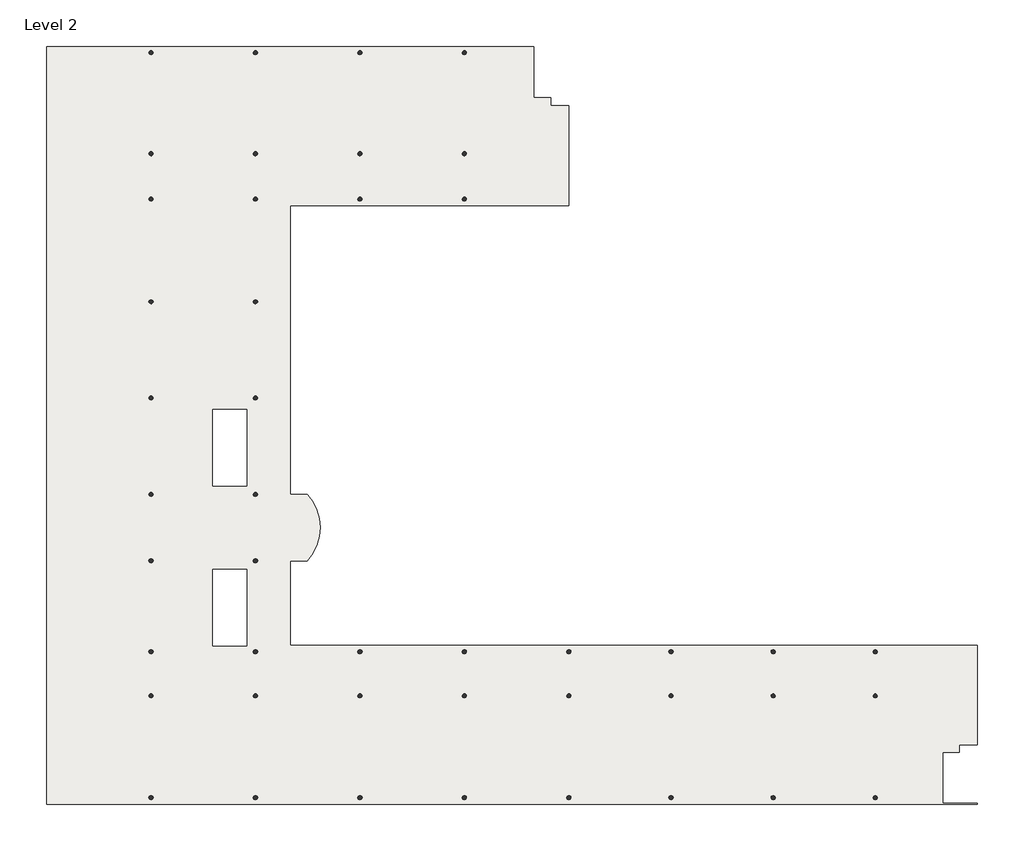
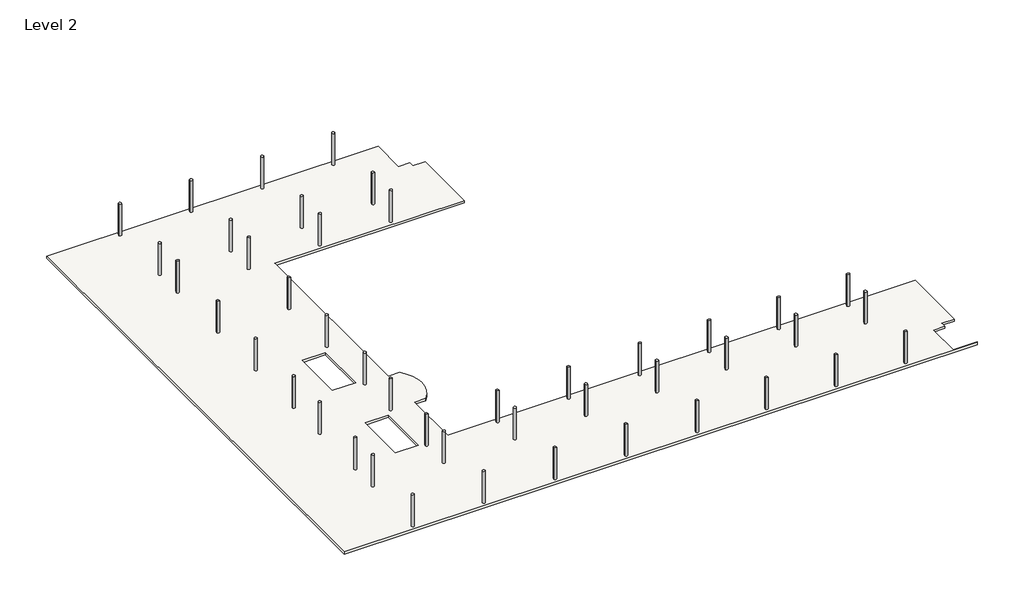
# One storey: 44 columns, 1 slab.
"""IFC4 building model written with IfcOpenShell, lengths in millimetres."""

import ifcopenshell
import ifcopenshell.guid

model = None  # the IFC model being written
_history = None  # IfcOwnerHistory: only IFC2X3 demands one
_inside = {}  # id of a spatial element -> (the spatial element, [elements in it])
_under = {}  # id of a project, library or spatial element -> (it, [spatial elements below it])
_declared = {}  # id of a project -> (the project, [libraries it declares])
_typed = {}  # id of a type object -> (the type object, [elements of that type])
_made_of = {}  # id of a material, layer set ... -> (it, [elements and type objects made of it])


def new_model(schema):
    """Start an empty IFC model of exactly this schema.

    Asked for "IFC4X3", IfcOpenShell would pick the latest addendum, in which some entities
    have other attributes; the version numbers below select the first issue.
    IFC2X3 requires an IfcOwnerHistory on every rooted entity: one is made here for all.
    """
    global model, _history
    if schema == "IFC4X3":
        model = ifcopenshell.file(schema_version=(4, 3, 0, 0))
    else:
        model = ifcopenshell.file(schema=schema)
    _inside.clear()
    _under.clear()
    _declared.clear()
    _typed.clear()
    _made_of.clear()
    _history = None
    if model.schema == "IFC2X3":
        org = make("IfcOrganization", Name="unknown")
        user = make(
            "IfcPersonAndOrganization",
            ThePerson=make("IfcPerson", FamilyName="unknown"),
            TheOrganization=org,
        )
        app = make(
            "IfcApplication",
            ApplicationDeveloper=org,
            Version="unknown",
            ApplicationFullName="unknown",
            ApplicationIdentifier="unknown",
        )
        _history = make(
            "IfcOwnerHistory",
            OwningUser=user,
            OwningApplication=app,
            ChangeAction="ADDED",
            CreationDate=0,
        )
    return model


def make(cls, **values):
    """One entity of the class cls with the attributes given. An attribute that is None is left unset."""
    return model.create_entity(
        cls, **{name: value for name, value in values.items() if value is not None}
    )


def rooted(cls, **values):
    """An entity with a GlobalId (a new one), such as an element, a storey or a relation."""
    return make(cls, GlobalId=ifcopenshell.guid.new(), OwnerHistory=_history, **values)


def si_unit(unit_type, name, prefix=None):
    """IfcSIUnit, for example si_unit("LENGTHUNIT", "METRE", prefix="MILLI")."""
    return make("IfcSIUnit", UnitType=unit_type, Prefix=prefix, Name=name)


def assignment(units):
    """IfcUnitAssignment: the units of a project."""
    return None if units is None else make("IfcUnitAssignment", Units=units)


def point(xyz):
    """IfcCartesianPoint."""
    return None if xyz is None else make("IfcCartesianPoint", Coordinates=xyz)


def direction(xyz):
    """IfcDirection."""
    return None if xyz is None else make("IfcDirection", DirectionRatios=xyz)


def frame(location, z_axis=None, x_axis=None):
    """IfcAxis2Placement3D, a coordinate frame: its origin and axes. An axis left out is left unset."""
    return make(
        "IfcAxis2Placement3D",
        Location=point(location),
        Axis=direction(z_axis),
        RefDirection=direction(x_axis),
    )


def frame_2d(location, x_axis=None):
    """IfcAxis2Placement2D, a coordinate frame in the plane: its origin and x axis."""
    return make(
        "IfcAxis2Placement2D", Location=point(location), RefDirection=direction(x_axis)
    )


def origin():
    """The frame at (0, 0, 0) with its axes left unset."""
    return frame((0.0, 0.0, 0.0))


def origin_2d():
    """The frame at (0, 0) in the plane with its x axis left unset."""
    return frame_2d((0.0, 0.0))


def place(relative_to, where):
    """IfcLocalPlacement: puts the frame where relative to a parent placement (None: the world)."""
    return make(
        "IfcLocalPlacement", PlacementRelTo=relative_to, RelativePlacement=where
    )


def context(
    kind, dimensions, precision=None, world=None, true_north=None, identifier=None
):
    """IfcGeometricRepresentationContext, for example the 3D "Model" context."""
    return make(
        "IfcGeometricRepresentationContext",
        ContextIdentifier=identifier,
        ContextType=kind,
        CoordinateSpaceDimension=dimensions,
        Precision=precision,
        WorldCoordinateSystem=world,
        TrueNorth=true_north,
    )


def project(units=None, contexts=None):
    """IfcProject with its units and contexts."""
    return rooted(
        "IfcProject",
        Name="project",
        RepresentationContexts=contexts,
        UnitsInContext=assignment(units),
    )


def spatial(cls, under=None, at=None, **own):
    """A site, building, storey or space (cls), placed at a placement, below another one or the project."""
    s = rooted(cls, ObjectPlacement=at, **own)
    if under is not None:
        _under.setdefault(under.id(), (under, []))[1].append(s)
    return s


def polyline(points):
    """IfcPolyline through the points."""
    return make("IfcPolyline", Points=[point(p) for p in points])


def circle_curve(where, radius):
    """IfcCircle in the frame where."""
    return make("IfcCircle", Position=where, Radius=radius)


def trimmed(basis, trim1, trim2, sense, master):
    """IfcTrimmedCurve: the piece of a basis curve between two trims."""
    return make(
        "IfcTrimmedCurve",
        BasisCurve=basis,
        Trim1=trim1,
        Trim2=trim2,
        SenseAgreement=sense,
        MasterRepresentation=master,
    )


def segment(curve, same_sense, transition):
    """IfcCompositeCurveSegment."""
    return make(
        "IfcCompositeCurveSegment",
        Transition=transition,
        SameSense=same_sense,
        ParentCurve=curve,
    )


def composite_curve(segments, self_intersect=None):
    """IfcCompositeCurve: segments joined end to end."""
    return make("IfcCompositeCurve", Segments=segments, SelfIntersect=self_intersect)


def outline(outer, holes=None, kind="AREA"):
    """IfcArbitraryClosedProfileDef: a profile drawn as a closed curve; with holes, ...WithVoids."""
    if holes is None:
        return make("IfcArbitraryClosedProfileDef", ProfileType=kind, OuterCurve=outer)
    return make(
        "IfcArbitraryProfileDefWithVoids",
        ProfileType=kind,
        OuterCurve=outer,
        InnerCurves=holes,
    )


def extrude(swept, where, along, depth):
    """IfcExtrudedAreaSolid: the profile swept, set in the frame where, extruded along a direction by depth."""
    return make(
        "IfcExtrudedAreaSolid",
        SweptArea=swept,
        Position=where,
        ExtrudedDirection=direction(along),
        Depth=depth,
    )


def shape(context_of_items, identifier, shape_type, items):
    """IfcShapeRepresentation: the items that make up one representation, for example the "Body"."""
    return make(
        "IfcShapeRepresentation",
        ContextOfItems=context_of_items,
        RepresentationIdentifier=identifier,
        RepresentationType=shape_type,
        Items=items,
    )


def source(mapping_origin, context_of_items, identifier, shape_type, items):
    """IfcRepresentationMap: a shape defined once, which mapped items show again and again."""
    return make(
        "IfcRepresentationMap",
        MappingOrigin=mapping_origin,
        MappedRepresentation=shape(context_of_items, identifier, shape_type, items),
    )


def transform(
    local_origin,
    x_axis=None,
    y_axis=None,
    z_axis=None,
    scale=None,
    scale2=None,
    scale3=None,
    uniform=True,
):
    """IfcCartesianTransformationOperator3D, or its non-uniform kind. x_axis, y_axis, z_axis: its Axis1, 2, 3."""
    if uniform:
        return make(
            "IfcCartesianTransformationOperator3D",
            Axis1=direction(x_axis),
            Axis2=direction(y_axis),
            LocalOrigin=point(local_origin),
            Scale=scale,
            Axis3=direction(z_axis),
        )
    return make(
        "IfcCartesianTransformationOperator3DnonUniform",
        Axis1=direction(x_axis),
        Axis2=direction(y_axis),
        LocalOrigin=point(local_origin),
        Scale=scale,
        Axis3=direction(z_axis),
        Scale2=scale2,
        Scale3=scale3,
    )


def mapped(mapping_source, mapping_target):
    """IfcMappedItem: shows the shape of a source again, moved by a transform."""
    return make(
        "IfcMappedItem", MappingSource=mapping_source, MappingTarget=mapping_target
    )


def made_of(thing, what):
    """Note that an element or type object is made of a material, layer set ...; save() writes the relation."""
    if what is not None:
        _made_of.setdefault(what.id(), (what, []))[1].append(thing)
    return thing


def element(
    cls,
    number,
    at=None,
    inside=None,
    cuts=None,
    type_object=None,
    material=None,
    context=None,
    identifier="Body",
    shape_type=None,
    held_by="IfcProductDefinitionShape",
    body=None,
    shapes=None,
    **own,
):
    """One element of the class cls, such as IfcWall. Its Tag is "e" and its number.

    at: its placement. inside: the storey or other place that contains it. cuts: it is an
    opening in that element (IfcRelVoidsElement). A single representation is given by context,
    identifier, shape_type and body (its items); several are given by shapes. held_by: the class
    of the entity that holds the representations. save() writes the other relations.
    """
    e = rooted(cls, Tag="e%d" % number, ObjectPlacement=at, **own)
    if body is not None:
        shapes = [shape(context, identifier, shape_type, body)]
    if shapes is not None:
        e.Representation = make(held_by, Representations=shapes)
    if inside is not None:
        _inside.setdefault(inside.id(), (inside, []))[1].append(e)
    if cuts is not None:
        rooted(
            "IfcRelVoidsElement", RelatingBuildingElement=cuts, RelatedOpeningElement=e
        )
    if type_object is not None:
        _typed.setdefault(type_object.id(), (type_object, []))[1].append(e)
    return made_of(e, material)


def aggregate(whole, parts):
    """IfcRelAggregates: a whole, such as a stair, and the parts it consists of."""
    return rooted("IfcRelAggregates", RelatingObject=whole, RelatedObjects=parts)


def save(model, path):
    """Write the relations noted so far, then the file.

    IfcRelAggregates (storeys below a building ...), IfcRelContainedInSpatialStructure (elements
    in a storey), IfcRelDefinesByType, IfcRelAssociatesMaterial and IfcRelDeclares: one each for
    every whole, place, type object, material and project.
    """
    for whole, parts in _under.values():
        aggregate(whole, parts)
    for where, things in _inside.values():
        rooted(
            "IfcRelContainedInSpatialStructure",
            RelatedElements=things,
            RelatingStructure=where,
        )
    for kind, things in _typed.values():
        rooted("IfcRelDefinesByType", RelatedObjects=things, RelatingType=kind)
    for what, things in _made_of.values():
        rooted("IfcRelAssociatesMaterial", RelatedObjects=things, RelatingMaterial=what)
    for by, libraries in _declared.values():
        rooted("IfcRelDeclares", RelatingContext=by, RelatedDefinitions=libraries)
    model.write(path)


def m_concrete_round_column_300mm_33275d7c(model_context):
    return source(origin(), model_context, "Body", "SweptSolid", [
        extrude(outline(composite_curve([segment(trimmed(circle_curve(origin_2d(), 150.0), [point((-150.0, 0.0))], [point((150.0, 0.0))], False, "CARTESIAN"), True, "CONTINUOUS"), segment(trimmed(circle_curve(origin_2d(), 150.0), [point((150.0, 0.0))], [point((-150.0, 0.0))], False, "CARTESIAN"), True, "CONTINUOUS")], self_intersect=False)), frame((0.0, 0.0, 3800.0), z_axis=(0.0, 0.0, 1.0), x_axis=(1.0, 0.0, 0.0)), (0.0, 0.0, 1.0), 3550.0),
    ])


model = new_model("IFC4")

# Units and contexts
model_context = context("Model", 3, world=origin())
ifc_project = project(units=[si_unit("LENGTHUNIT", "METRE", prefix="MILLI")], contexts=[model_context])

# Site, building, storey
site = spatial("IfcSite", under=ifc_project)
building = spatial("IfcBuilding", under=site)
storey = spatial("IfcBuildingStorey", under=building, Name="Level 2", Elevation=3800.0)

# Columns
placement = place(None, origin())
m_concrete_round_column_300mm_shape = m_concrete_round_column_300mm_33275d7c(model_context)
element("IfcColumn", 1, ObjectType="M_Concrete-Round-Column : 300mm", at=placement, inside=storey, context=model_context, shape_type="MappedRepresentation", body=[
    mapped(m_concrete_round_column_300mm_shape, transform((-2539.0909489, 23121.5799804, 0.0), x_axis=(-1.0, 0.0, 0.0), y_axis=(0.0, -1.0, 0.0), z_axis=(0.0, 0.0, 1.0))),
])
element("IfcColumn", 2, ObjectType="M_Concrete-Round-Column : 300mm", at=placement, inside=storey, context=model_context, shape_type="MappedRepresentation", body=[
    mapped(m_concrete_round_column_300mm_shape, transform((-2539.0909489, 12506.7392059, 0.0), x_axis=(-1.0, 0.0, 0.0), y_axis=(0.0, -1.0, 0.0), z_axis=(0.0, 0.0, 1.0))),
])
element("IfcColumn", 3, ObjectType="M_Concrete-Round-Column : 300mm", at=placement, inside=storey, context=model_context, shape_type="MappedRepresentation", body=[
    mapped(m_concrete_round_column_300mm_shape, transform((-2539.0909489, 5598.6392059, 0.0), x_axis=(-1.0, 0.0, 0.0), y_axis=(0.0, -1.0, 0.0), z_axis=(0.0, 0.0, 1.0))),
])
element("IfcColumn", 4, ObjectType="M_Concrete-Round-Column : 300mm", at=placement, inside=storey, context=model_context, shape_type="MappedRepresentation", body=[
    mapped(m_concrete_round_column_300mm_shape, transform((-2539.0909489, -1309.4607941, 0.0), x_axis=(-1.0, 0.0, 0.0), y_axis=(0.0, -1.0, 0.0), z_axis=(0.0, 0.0, 1.0))),
])
element("IfcColumn", 5, ObjectType="M_Concrete-Round-Column : 300mm", at=placement, inside=storey, context=model_context, shape_type="MappedRepresentation", body=[
    mapped(m_concrete_round_column_300mm_shape, transform((-2539.0909489, -6063.8611817, 0.0), x_axis=(-1.0, 0.0, 0.0), y_axis=(0.0, -1.0, 0.0), z_axis=(0.0, 0.0, 1.0))),
])
element("IfcColumn", 6, ObjectType="M_Concrete-Round-Column : 300mm", at=placement, inside=storey, context=model_context, shape_type="MappedRepresentation", body=[
    mapped(m_concrete_round_column_300mm_shape, transform((-2539.0909489, -15754.7006057, 0.0), x_axis=(-1.0, 0.0, 0.0), y_axis=(0.0, -1.0, 0.0), z_axis=(0.0, 0.0, 1.0))),
])
element("IfcColumn", 7, ObjectType="M_Concrete-Round-Column : 300mm", at=placement, inside=storey, context=model_context, shape_type="MappedRepresentation", body=[
    mapped(m_concrete_round_column_300mm_shape, transform((-2539.0909489, 30368.5799804, 0.0), x_axis=(-1.0, 0.0, 0.0), y_axis=(0.0, -1.0, 0.0), z_axis=(0.0, 0.0, 1.0))),
])
element("IfcColumn", 8, ObjectType="M_Concrete-Round-Column : 300mm", at=placement, inside=storey, context=model_context, shape_type="MappedRepresentation", body=[
    mapped(m_concrete_round_column_300mm_shape, transform((-2539.0909489, 19864.8392059, 0.0), x_axis=(-1.0, 0.0, 0.0), y_axis=(0.0, -1.0, 0.0), z_axis=(0.0, 0.0, 1.0))),
])
element("IfcColumn", 9, ObjectType="M_Concrete-Round-Column : 300mm", at=placement, inside=storey, context=model_context, shape_type="MappedRepresentation", body=[
    mapped(m_concrete_round_column_300mm_shape, transform((-2539.0909489, -12582.3615692, 0.0), x_axis=(-1.0, 0.0, 0.0), y_axis=(0.0, -1.0, 0.0), z_axis=(0.0, 0.0, 1.0))),
])
element("IfcColumn", 10, ObjectType="M_Concrete-Round-Column : 300mm", at=placement, inside=storey, context=model_context, shape_type="MappedRepresentation", body=[
    mapped(m_concrete_round_column_300mm_shape, transform((-2539.0909489, -23060.7006057, 0.0), x_axis=(-1.0, 0.0, 0.0), y_axis=(0.0, -1.0, 0.0), z_axis=(0.0, 0.0, 1.0))),
])
element("IfcColumn", 11, ObjectType="M_Concrete-Round-Column : 300mm", at=placement, inside=storey, context=model_context, shape_type="MappedRepresentation", body=[
    mapped(m_concrete_round_column_300mm_shape, transform((4948.6567657, 23121.5799804, 0.0), x_axis=(-1.0, 0.0, 0.0), y_axis=(0.0, -1.0, 0.0), z_axis=(0.0, 0.0, 1.0))),
])
element("IfcColumn", 12, ObjectType="M_Concrete-Round-Column : 300mm", at=placement, inside=storey, context=model_context, shape_type="MappedRepresentation", body=[
    mapped(m_concrete_round_column_300mm_shape, transform((4948.6567657, 12506.7392059, 0.0), x_axis=(-1.0, 0.0, 0.0), y_axis=(0.0, -1.0, 0.0), z_axis=(0.0, 0.0, 1.0))),
])
element("IfcColumn", 13, ObjectType="M_Concrete-Round-Column : 300mm", at=placement, inside=storey, context=model_context, shape_type="MappedRepresentation", body=[
    mapped(m_concrete_round_column_300mm_shape, transform((4948.6567657, 5598.6392059, 0.0), x_axis=(-1.0, 0.0, 0.0), y_axis=(0.0, -1.0, 0.0), z_axis=(0.0, 0.0, 1.0))),
])
element("IfcColumn", 14, ObjectType="M_Concrete-Round-Column : 300mm", at=placement, inside=storey, context=model_context, shape_type="MappedRepresentation", body=[
    mapped(m_concrete_round_column_300mm_shape, transform((4948.6567657, -1309.4607941, 0.0), x_axis=(-1.0, 0.0, 0.0), y_axis=(0.0, -1.0, 0.0), z_axis=(0.0, 0.0, 1.0))),
])
element("IfcColumn", 15, ObjectType="M_Concrete-Round-Column : 300mm", at=placement, inside=storey, context=model_context, shape_type="MappedRepresentation", body=[
    mapped(m_concrete_round_column_300mm_shape, transform((4948.6567657, -6063.8611817, 0.0), x_axis=(-1.0, 0.0, 0.0), y_axis=(0.0, -1.0, 0.0), z_axis=(0.0, 0.0, 1.0))),
])
element("IfcColumn", 16, ObjectType="M_Concrete-Round-Column : 300mm", at=placement, inside=storey, context=model_context, shape_type="MappedRepresentation", body=[
    mapped(m_concrete_round_column_300mm_shape, transform((4948.6567657, -15754.7006057, 0.0), x_axis=(-1.0, 0.0, 0.0), y_axis=(0.0, -1.0, 0.0), z_axis=(0.0, 0.0, 1.0))),
])
element("IfcColumn", 17, ObjectType="M_Concrete-Round-Column : 300mm", at=placement, inside=storey, context=model_context, shape_type="MappedRepresentation", body=[
    mapped(m_concrete_round_column_300mm_shape, transform((4948.6567657, 30368.5799804, 0.0), x_axis=(-1.0, 0.0, 0.0), y_axis=(0.0, -1.0, 0.0), z_axis=(0.0, 0.0, 1.0))),
])
element("IfcColumn", 18, ObjectType="M_Concrete-Round-Column : 300mm", at=placement, inside=storey, context=model_context, shape_type="MappedRepresentation", body=[
    mapped(m_concrete_round_column_300mm_shape, transform((4948.6567657, 19864.8392059, 0.0), x_axis=(-1.0, 0.0, 0.0), y_axis=(0.0, -1.0, 0.0), z_axis=(0.0, 0.0, 1.0))),
])
element("IfcColumn", 19, ObjectType="M_Concrete-Round-Column : 300mm", at=placement, inside=storey, context=model_context, shape_type="MappedRepresentation", body=[
    mapped(m_concrete_round_column_300mm_shape, transform((4948.6567657, -12582.3615692, 0.0), x_axis=(-1.0, 0.0, 0.0), y_axis=(0.0, -1.0, 0.0), z_axis=(0.0, 0.0, 1.0))),
])
element("IfcColumn", 20, ObjectType="M_Concrete-Round-Column : 300mm", at=placement, inside=storey, context=model_context, shape_type="MappedRepresentation", body=[
    mapped(m_concrete_round_column_300mm_shape, transform((4948.6567657, -23060.7006057, 0.0), x_axis=(-1.0, 0.0, 0.0), y_axis=(0.0, -1.0, 0.0), z_axis=(0.0, 0.0, 1.0))),
])
element("IfcColumn", 21, ObjectType="M_Concrete-Round-Column : 300mm", at=placement, inside=storey, context=model_context, shape_type="MappedRepresentation", body=[
    mapped(m_concrete_round_column_300mm_shape, transform((12436.4044804, 23121.5799804, 0.0), x_axis=(-1.0, 0.0, 0.0), y_axis=(0.0, -1.0, 0.0), z_axis=(0.0, 0.0, 1.0))),
])
element("IfcColumn", 22, ObjectType="M_Concrete-Round-Column : 300mm", at=placement, inside=storey, context=model_context, shape_type="MappedRepresentation", body=[
    mapped(m_concrete_round_column_300mm_shape, transform((12436.4044804, -15754.7006057, 0.0), x_axis=(-1.0, 0.0, 0.0), y_axis=(0.0, -1.0, 0.0), z_axis=(0.0, 0.0, 1.0))),
])
element("IfcColumn", 23, ObjectType="M_Concrete-Round-Column : 300mm", at=placement, inside=storey, context=model_context, shape_type="MappedRepresentation", body=[
    mapped(m_concrete_round_column_300mm_shape, transform((12436.4044804, 30368.5799804, 0.0), x_axis=(-1.0, 0.0, 0.0), y_axis=(0.0, -1.0, 0.0), z_axis=(0.0, 0.0, 1.0))),
])
element("IfcColumn", 24, ObjectType="M_Concrete-Round-Column : 300mm", at=placement, inside=storey, context=model_context, shape_type="MappedRepresentation", body=[
    mapped(m_concrete_round_column_300mm_shape, transform((12436.4044804, 19864.8392059, 0.0), x_axis=(-1.0, 0.0, 0.0), y_axis=(0.0, -1.0, 0.0), z_axis=(0.0, 0.0, 1.0))),
])
element("IfcColumn", 25, ObjectType="M_Concrete-Round-Column : 300mm", at=placement, inside=storey, context=model_context, shape_type="MappedRepresentation", body=[
    mapped(m_concrete_round_column_300mm_shape, transform((12436.4044804, -12582.3615692, 0.0), x_axis=(-1.0, 0.0, 0.0), y_axis=(0.0, -1.0, 0.0), z_axis=(0.0, 0.0, 1.0))),
])
element("IfcColumn", 26, ObjectType="M_Concrete-Round-Column : 300mm", at=placement, inside=storey, context=model_context, shape_type="MappedRepresentation", body=[
    mapped(m_concrete_round_column_300mm_shape, transform((12436.4044804, -23060.7006057, 0.0), x_axis=(-1.0, 0.0, 0.0), y_axis=(0.0, -1.0, 0.0), z_axis=(0.0, 0.0, 1.0))),
])
element("IfcColumn", 27, ObjectType="M_Concrete-Round-Column : 300mm", at=placement, inside=storey, context=model_context, shape_type="MappedRepresentation", body=[
    mapped(m_concrete_round_column_300mm_shape, transform((19924.152195, 23121.5799804, 0.0), x_axis=(-1.0, 0.0, 0.0), y_axis=(0.0, -1.0, 0.0), z_axis=(0.0, 0.0, 1.0))),
])
element("IfcColumn", 28, ObjectType="M_Concrete-Round-Column : 300mm", at=placement, inside=storey, context=model_context, shape_type="MappedRepresentation", body=[
    mapped(m_concrete_round_column_300mm_shape, transform((19924.152195, -15754.7006057, 0.0), x_axis=(-1.0, 0.0, 0.0), y_axis=(0.0, -1.0, 0.0), z_axis=(0.0, 0.0, 1.0))),
])
element("IfcColumn", 29, ObjectType="M_Concrete-Round-Column : 300mm", at=placement, inside=storey, context=model_context, shape_type="MappedRepresentation", body=[
    mapped(m_concrete_round_column_300mm_shape, transform((19924.152195, 30368.5799804, 0.0), x_axis=(-1.0, 0.0, 0.0), y_axis=(0.0, -1.0, 0.0), z_axis=(0.0, 0.0, 1.0))),
])
element("IfcColumn", 30, ObjectType="M_Concrete-Round-Column : 300mm", at=placement, inside=storey, context=model_context, shape_type="MappedRepresentation", body=[
    mapped(m_concrete_round_column_300mm_shape, transform((19924.152195, 19864.8392059, 0.0), x_axis=(-1.0, 0.0, 0.0), y_axis=(0.0, -1.0, 0.0), z_axis=(0.0, 0.0, 1.0))),
])
element("IfcColumn", 31, ObjectType="M_Concrete-Round-Column : 300mm", at=placement, inside=storey, context=model_context, shape_type="MappedRepresentation", body=[
    mapped(m_concrete_round_column_300mm_shape, transform((19924.152195, -12582.3615692, 0.0), x_axis=(-1.0, 0.0, 0.0), y_axis=(0.0, -1.0, 0.0), z_axis=(0.0, 0.0, 1.0))),
])
element("IfcColumn", 32, ObjectType="M_Concrete-Round-Column : 300mm", at=placement, inside=storey, context=model_context, shape_type="MappedRepresentation", body=[
    mapped(m_concrete_round_column_300mm_shape, transform((19924.152195, -23060.7006057, 0.0), x_axis=(-1.0, 0.0, 0.0), y_axis=(0.0, -1.0, 0.0), z_axis=(0.0, 0.0, 1.0))),
])
element("IfcColumn", 33, ObjectType="M_Concrete-Round-Column : 300mm", at=placement, inside=storey, context=model_context, shape_type="MappedRepresentation", body=[
    mapped(m_concrete_round_column_300mm_shape, transform((27411.8999097, -15754.7006057, 0.0), x_axis=(-1.0, 0.0, 0.0), y_axis=(0.0, -1.0, 0.0), z_axis=(0.0, 0.0, 1.0))),
])
element("IfcColumn", 34, ObjectType="M_Concrete-Round-Column : 300mm", at=placement, inside=storey, context=model_context, shape_type="MappedRepresentation", body=[
    mapped(m_concrete_round_column_300mm_shape, transform((27411.8999097, -12582.3615692, 0.0), x_axis=(-1.0, 0.0, 0.0), y_axis=(0.0, -1.0, 0.0), z_axis=(0.0, 0.0, 1.0))),
])
element("IfcColumn", 35, ObjectType="M_Concrete-Round-Column : 300mm", at=placement, inside=storey, context=model_context, shape_type="MappedRepresentation", body=[
    mapped(m_concrete_round_column_300mm_shape, transform((27411.8999097, -23060.7006057, 0.0), x_axis=(-1.0, 0.0, 0.0), y_axis=(0.0, -1.0, 0.0), z_axis=(0.0, 0.0, 1.0))),
])
element("IfcColumn", 36, ObjectType="M_Concrete-Round-Column : 300mm", at=placement, inside=storey, context=model_context, shape_type="MappedRepresentation", body=[
    mapped(m_concrete_round_column_300mm_shape, transform((34733.7042668, -15754.7006057, 0.0), x_axis=(-1.0, 0.0, 0.0), y_axis=(0.0, -1.0, 0.0), z_axis=(0.0, 0.0, 1.0))),
])
element("IfcColumn", 37, ObjectType="M_Concrete-Round-Column : 300mm", at=placement, inside=storey, context=model_context, shape_type="MappedRepresentation", body=[
    mapped(m_concrete_round_column_300mm_shape, transform((34733.7042668, -12582.3615692, 0.0), x_axis=(-1.0, 0.0, 0.0), y_axis=(0.0, -1.0, 0.0), z_axis=(0.0, 0.0, 1.0))),
])
element("IfcColumn", 38, ObjectType="M_Concrete-Round-Column : 300mm", at=placement, inside=storey, context=model_context, shape_type="MappedRepresentation", body=[
    mapped(m_concrete_round_column_300mm_shape, transform((34733.7042668, -23060.7006057, 0.0), x_axis=(-1.0, 0.0, 0.0), y_axis=(0.0, -1.0, 0.0), z_axis=(0.0, 0.0, 1.0))),
])
element("IfcColumn", 39, ObjectType="M_Concrete-Round-Column : 300mm", at=placement, inside=storey, context=model_context, shape_type="MappedRepresentation", body=[
    mapped(m_concrete_round_column_300mm_shape, transform((42055.5086239, -15754.7006057, 0.0), x_axis=(-1.0, 0.0, 0.0), y_axis=(0.0, -1.0, 0.0), z_axis=(0.0, 0.0, 1.0))),
])
element("IfcColumn", 40, ObjectType="M_Concrete-Round-Column : 300mm", at=placement, inside=storey, context=model_context, shape_type="MappedRepresentation", body=[
    mapped(m_concrete_round_column_300mm_shape, transform((42055.5086239, -12582.3615692, 0.0), x_axis=(-1.0, 0.0, 0.0), y_axis=(0.0, -1.0, 0.0), z_axis=(0.0, 0.0, 1.0))),
])
element("IfcColumn", 41, ObjectType="M_Concrete-Round-Column : 300mm", at=placement, inside=storey, context=model_context, shape_type="MappedRepresentation", body=[
    mapped(m_concrete_round_column_300mm_shape, transform((42055.5086239, -23060.7006057, 0.0), x_axis=(-1.0, 0.0, 0.0), y_axis=(0.0, -1.0, 0.0), z_axis=(0.0, 0.0, 1.0))),
])
element("IfcColumn", 42, ObjectType="M_Concrete-Round-Column : 300mm", at=placement, inside=storey, context=model_context, shape_type="MappedRepresentation", body=[
    mapped(m_concrete_round_column_300mm_shape, transform((49377.3129811, -15754.7006057, 0.0), x_axis=(-1.0, 0.0, 0.0), y_axis=(0.0, -1.0, 0.0), z_axis=(0.0, 0.0, 1.0))),
])
element("IfcColumn", 43, ObjectType="M_Concrete-Round-Column : 300mm", at=placement, inside=storey, context=model_context, shape_type="MappedRepresentation", body=[
    mapped(m_concrete_round_column_300mm_shape, transform((49377.3129811, -12582.3615692, 0.0), x_axis=(-1.0, 0.0, 0.0), y_axis=(0.0, -1.0, 0.0), z_axis=(0.0, 0.0, 1.0))),
])
element("IfcColumn", 44, ObjectType="M_Concrete-Round-Column : 300mm", at=placement, inside=storey, context=model_context, shape_type="MappedRepresentation", body=[
    mapped(m_concrete_round_column_300mm_shape, transform((49377.3129811, -23060.7006057, 0.0), x_axis=(-1.0, 0.0, 0.0), y_axis=(0.0, -1.0, 0.0), z_axis=(0.0, 0.0, 1.0))),
])

# Slab
element("IfcSlab", 45, ObjectType="250mm Concrete", at=placement, inside=storey, context=model_context, shape_type="SweptSolid", body=[
    extrude(outline(composite_curve([segment(polyline([(27411.8999097, 19414.8392059), (7447.5010724, 19414.8392059), (7447.5010724, -1309.4607941), (8647.5010724, -1309.4607941)]), True, "CONTINUOUS"), segment(trimmed(circle_curve(frame_2d((6078.6649081, -3686.6609879)), 3500.0), [point((8647.5010724, -1309.4607941))], [point((8647.5010724, -6063.8611817))], False, "CARTESIAN"), True, "CONTINUOUS"), segment(polyline([(8647.5010724, -6063.8611817), (7447.5010724, -6063.8611817), (7447.5010724, -12132.3615692), (56699.1173382, -12132.3615692), (56699.1173382, -19265.7006057), (55399.1173382, -19265.7006057), (55399.1173382, -19815.7006057), (54199.1173382, -19815.7006057), (54199.1173382, -23440.7006057), (56699.1173382, -23440.7006057), (56699.1173382, -23510.7006057), (-10026.8386635, -23510.7006057), (-10026.8386635, 30818.5799804), (24911.8999097, 30818.5799804), (24911.8999097, 27133.5799804), (26111.8999097, 27133.5799804), (26111.8999097, 26573.5799804), (27411.8999097, 26573.5799804), (27411.8999097, 19414.8392059)]), True, "CONTINUOUS")], self_intersect=False), holes=[polyline([(1898.6567657, -699.4607941), (4338.6567657, -699.4607941), (4338.6567657, 4800.5392059), (1898.6567657, 4800.5392059), (1898.6567657, -699.4607941)]), polyline([(1898.6567657, -6673.8611817), (1898.6567657, -12173.8611817), (4338.6567657, -12173.8611817), (4338.6567657, -6673.8611817), (1898.6567657, -6673.8611817)])]), frame((0.0, 0.0, 3550.0), z_axis=(0.0, 0.0, 1.0), x_axis=(1.0, 0.0, 0.0)), (0.0, 0.0, 1.0), 250.0),
])

save(model, "model.ifc")
